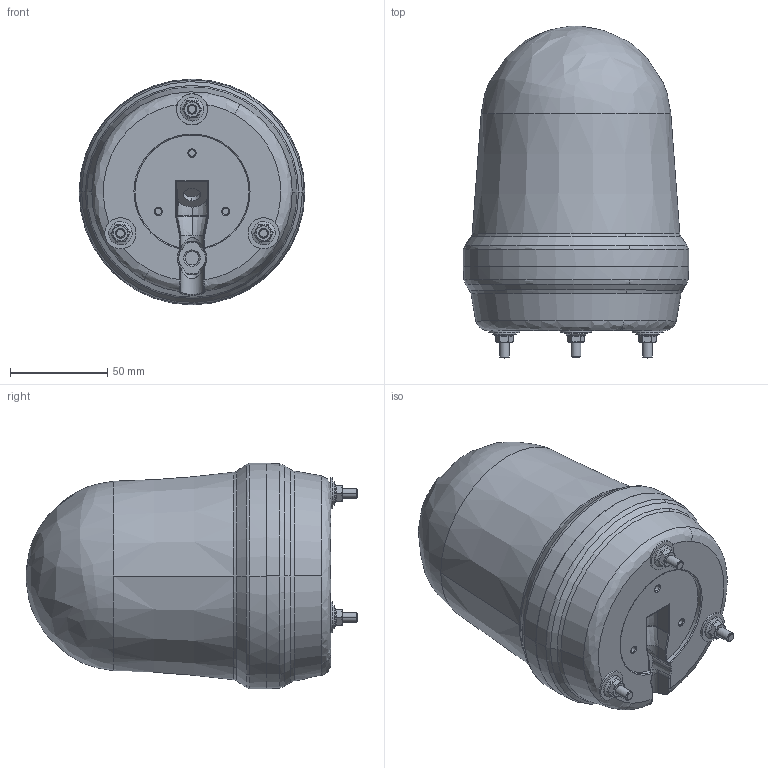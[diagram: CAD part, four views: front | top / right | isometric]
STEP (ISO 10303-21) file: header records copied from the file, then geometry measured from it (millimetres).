
FILE_DESCRIPTION (( 'STEP AP203' ), '1' );
FILE_NAME ('QKR572_3D00259 Q125L 3D紫賊_221013.STEP', '2022-10-13T05:23:19', ( 'QKR_NOTE119' ), ( '' ), 'SwSTEP 2.0', 'SolidWorks 2019', '' );
FILE_SCHEMA (( 'CONFIG_CONTROL_DESIGN' ));
Length unit declared in the file: millimetre
Products named in the file (1): QKR572_3D00259 Q125L 3D紫賊_221013
Bounding box: 116.1 x 170.68 x 116.1 mm (x, y, z)
Volume: 1185437.8 mm3; surface area: 63392.6 mm2
Topology: 1 solids, 4 shells, 311 faces, 763 edges, 472 vertices
Faces by surface type: plane 94, cone 81, bspline 74, cylinder 62
Entity records: 13396 total; most frequent: CARTESIAN_POINT 6681, ORIENTED_EDGE 1518, DIRECTION 1181, EDGE_CURVE 759, AXIS2_PLACEMENT_3D 477, VERTEX_POINT 472, EDGE_LOOP 339, ADVANCED_FACE 311
